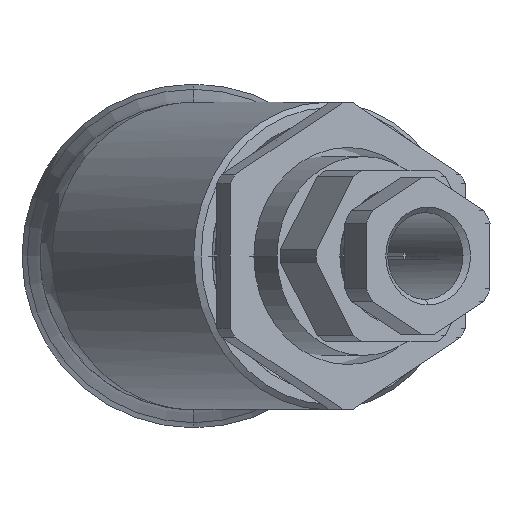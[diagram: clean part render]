
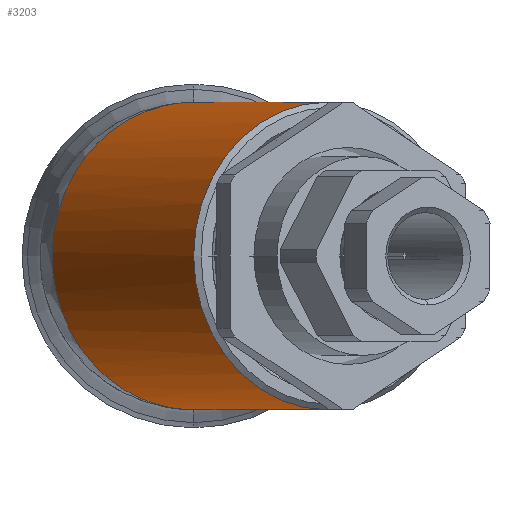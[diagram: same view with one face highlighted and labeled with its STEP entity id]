
A CAD part, left-side view. The second image highlights one B-rep face of the part: STEP entity #3203.
In plain terms, the highlighted cylindrical face has radius 8.5 mm (diameter 17 mm), a partial arc.
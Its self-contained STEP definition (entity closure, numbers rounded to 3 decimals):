
#844=CARTESIAN_POINT('',(0.,0.,
8.5));
#867=CARTESIAN_POINT('',(0.,0.,-8.5));
#868=CARTESIAN_POINT('',(-0.241,0.551,
-8.5));
#869=CARTESIAN_POINT('',(-0.725,1.65,
-8.373));
#870=CARTESIAN_POINT('',(-1.414,3.221,-7.816));
#871=CARTESIAN_POINT('',(-2.041,4.649,-6.917));
#872=CARTESIAN_POINT('',(-2.578,5.872,-5.716));
#873=CARTESIAN_POINT('',(-3.002,6.838,-4.268));
#874=CARTESIAN_POINT('',(-3.295,7.504,-2.636));
#875=CARTESIAN_POINT('',(-3.444,7.844,
-0.891));
#876=CARTESIAN_POINT('',(-3.444,7.844,0.893));
#877=CARTESIAN_POINT('',(-3.294,7.504,2.638));
#878=CARTESIAN_POINT('',(-3.002,6.837,4.27));
#879=CARTESIAN_POINT('',(-2.578,5.871,5.718));
#880=CARTESIAN_POINT('',(-2.041,4.648,6.918));
#881=CARTESIAN_POINT('',(-1.413,3.219,7.817));
#882=CARTESIAN_POINT('',(-0.724,1.647,8.374));
#883=CARTESIAN_POINT('',(-0.241,0.55,
8.5));
#884=CARTESIAN_POINT('',(0.,0.,
8.5));
#886=CARTESIAN_POINT('',(-12.731,-7.35,
0.));
#887=DIRECTION('',(0.866,0.5,0.));
#888=DIRECTION('',(0.,0.,-1.));
#889=AXIS2_PLACEMENT_3D('',#886,#887,#888);
#924=DIRECTION('',(0.866,0.5,0.));
#925=VECTOR('',#924,14.7);
#926=CARTESIAN_POINT('',(-12.731,-7.35,8.5));
#927=LINE('',#926,#925);
#947=DIRECTION('',(-0.866,-0.5,0.));
#948=VECTOR('',#947,14.7);
#949=CARTESIAN_POINT('',(0.,0.,-8.5));
#950=LINE('',#949,#948);
#2003=CARTESIAN_POINT('',(0.,0.,-8.5));
#2004=VERTEX_POINT('',#2003);
#2005=VERTEX_POINT('',#844);
#2006=CARTESIAN_POINT('',(-12.731,-7.35,
-8.5));
#2007=CARTESIAN_POINT('',(-12.731,-7.35,
8.5));
#2008=VERTEX_POINT('',#2006);
#2009=VERTEX_POINT('',#2007);
#3189=CARTESIAN_POINT('',(-13.001,-7.506,0.));
#3190=DIRECTION('',(0.866,0.5,0.));
#3191=DIRECTION('',(0.,0.,1.));
#3192=AXIS2_PLACEMENT_3D('',#3189,#3190,#3191);
#3193=CYLINDRICAL_SURFACE('',#3192,8.5);
#3195=ORIENTED_EDGE('',*,*,#3194,.F.);
#3197=ORIENTED_EDGE('',*,*,#3196,.F.);
#3198=ORIENTED_EDGE('',*,*,#3183,.T.);
#3200=ORIENTED_EDGE('',*,*,#3199,.F.);
#3201=EDGE_LOOP('',(#3195,#3197,#3198,#3200));
#3202=FACE_OUTER_BOUND('',#3201,.F.);
#3203=ADVANCED_FACE('',(#3202),#3193,.T.);
#885=B_SPLINE_CURVE_WITH_KNOTS('',3,(#867,#868,#869,#870,#871,#872,#873,#874,
#875,#876,#877,#878,#879,#880,#881,#882,#883,#884),.UNSPECIFIED.,.F.,.F.,(4,1,1,
1,1,1,1,1,1,1,1,1,1,1,1,4),(0.,0.067,0.133,0.2,
0.267,0.333,0.4,0.467,0.533,
0.6,0.667,0.733,0.8,0.867,
0.933,1.),.UNSPECIFIED.);
#890=CIRCLE('',#889,8.5);
#3183=EDGE_CURVE('',#2004,#2005,#885,.T.);
#3194=EDGE_CURVE('',#2008,#2009,#890,.T.);
#3196=EDGE_CURVE('',#2004,#2008,#950,.T.);
#3199=EDGE_CURVE('',#2009,#2005,#927,.T.);
